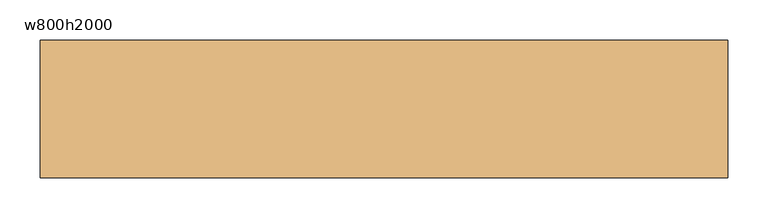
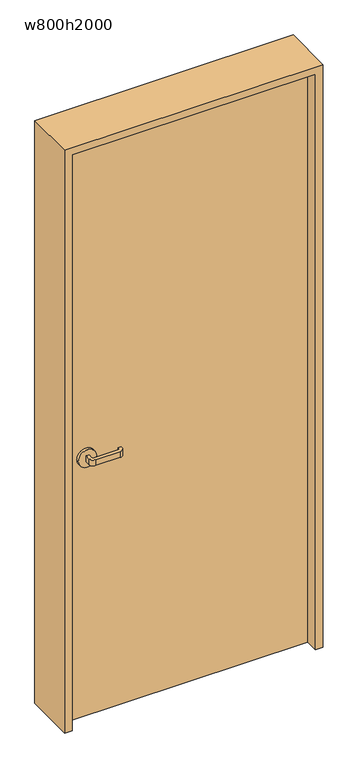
"""IFC4 building model written with IfcOpenShell, lengths in millimetres: door geometry, 片開き戸 : w800h2000."""

from ifc_helpers import new_model, si_unit, point, frame, frame_2d, origin, origin_with_axes, place, context, project, spatial, polyline, circle_curve, trimmed, segment, composite_curve, outline, extrude, source, transform, mapped, element, save


def w800h2000_09ab6a6a(model_context):
    return source(origin(), model_context, "Body", "SweptSolid", [
        extrude(outline(polyline([(400.0, -40.0), (-400.0, -40.0), (-400.0, 0.0), (400.0, 0.0), (400.0, -40.0)])), origin_with_axes(), (0.0, 0.0, 1.0), 2000.0),
        extrude(outline(composite_curve([segment(polyline([(-325.0, -50.0), (-325.0, -65.0)]), True, "CONTINUOUS"), segment(trimmed(circle_curve(frame_2d((-320.0, -65.0)), 5.0), [point((-325.0, -65.0))], [point((-320.0, -70.0))], True, "CARTESIAN"), True, "CONTINUOUS"), segment(polyline([(-320.0, -70.0), (-240.0, -70.0)]), True, "CONTINUOUS"), segment(trimmed(circle_curve(frame_2d((-240.0, -65.0)), 5.0), [point((-240.0, -70.0))], [point((-235.0, -65.0))], True, "CARTESIAN"), True, "CONTINUOUS"), segment(polyline([(-235.0, -65.0), (-235.0, -60.0), (-225.0, -60.0), (-225.0, -65.0)]), True, "CONTINUOUS"), segment(trimmed(circle_curve(frame_2d((-240.0, -65.0)), 15.0), [point((-225.0, -65.0))], [point((-240.0, -80.0))], False, "CARTESIAN"), True, "CONTINUOUS"), segment(polyline([(-240.0, -80.0), (-320.0, -80.0)]), True, "CONTINUOUS"), segment(trimmed(circle_curve(frame_2d((-320.0, -65.0)), 15.0), [point((-320.0, -80.0))], [point((-335.0, -65.0))], False, "CARTESIAN"), True, "CONTINUOUS"), segment(polyline([(-335.0, -65.0), (-335.0, -50.0), (-325.0, -50.0)]), True, "CONTINUOUS")], self_intersect=False)), frame((0.0, 0.0, 890.0), z_axis=(0.0, 0.0, 1.0), x_axis=(1.0, 0.0, 0.0)), (0.0, 0.0, 1.0), 20.0),
        extrude(outline(composite_curve([segment(trimmed(circle_curve(frame_2d((900.0, -330.0)), 30.0), [point((900.0, -360.0))], [point((900.0, -300.0))], False, "CARTESIAN"), True, "CONTINUOUS"), segment(trimmed(circle_curve(frame_2d((900.0, -330.0)), 30.0), [point((900.0, -300.0))], [point((900.0, -360.0))], False, "CARTESIAN"), True, "CONTINUOUS")], self_intersect=False)), frame((0.0, -50.0, 0.0), z_axis=(0.0, 1.0, 0.0), x_axis=(0.0, 0.0, 1.0)), (0.0, 0.0, 1.0), 10.0),
        extrude(outline(composite_curve([segment(polyline([(-335.0, 10.0), (-335.0, 25.0)]), True, "CONTINUOUS"), segment(trimmed(circle_curve(frame_2d((-320.0, 25.0)), 15.0), [point((-335.0, 25.0))], [point((-320.0, 40.0))], False, "CARTESIAN"), True, "CONTINUOUS"), segment(polyline([(-320.0, 40.0), (-240.0, 40.0)]), True, "CONTINUOUS"), segment(trimmed(circle_curve(frame_2d((-240.0, 25.0)), 15.0), [point((-240.0, 40.0))], [point((-225.0, 25.0))], False, "CARTESIAN"), True, "CONTINUOUS"), segment(polyline([(-225.0, 25.0), (-225.0, 20.0), (-235.0, 20.0), (-235.0, 25.0)]), True, "CONTINUOUS"), segment(trimmed(circle_curve(frame_2d((-240.0, 25.0)), 5.0), [point((-235.0, 25.0))], [point((-240.0, 30.0))], True, "CARTESIAN"), True, "CONTINUOUS"), segment(polyline([(-240.0, 30.0), (-320.0, 30.0)]), True, "CONTINUOUS"), segment(trimmed(circle_curve(frame_2d((-320.0, 25.0)), 5.0), [point((-320.0, 30.0))], [point((-325.0, 25.0))], True, "CARTESIAN"), True, "CONTINUOUS"), segment(polyline([(-325.0, 25.0), (-325.0, 10.0), (-335.0, 10.0)]), True, "CONTINUOUS")], self_intersect=False)), frame((0.0, 0.0, 890.0), z_axis=(0.0, 0.0, 1.0), x_axis=(1.0, 0.0, 0.0)), (0.0, 0.0, 1.0), 20.0),
        extrude(outline(composite_curve([segment(trimmed(circle_curve(frame_2d((900.0, -330.0)), 30.0), [point((900.0, -360.0))], [point((900.0, -300.0))], False, "CARTESIAN"), True, "CONTINUOUS"), segment(trimmed(circle_curve(frame_2d((900.0, -330.0)), 30.0), [point((900.0, -300.0))], [point((900.0, -360.0))], False, "CARTESIAN"), True, "CONTINUOUS")], self_intersect=False)), frame((0.0, 0.0, 0.0), z_axis=(0.0, 1.0, 0.0), x_axis=(0.0, 0.0, 1.0)), (0.0, 0.0, 1.0), 10.0),
        extrude(outline(polyline([(0.0, -400.0), (2000.0, -400.0), (2000.0, 400.0), (0.0, 400.0), (0.0, 425.0), (2025.0, 425.0), (2025.0, -425.0), (0.0, -425.0), (0.0, -400.0)])), frame((0.0, -85.0, 0.0), z_axis=(0.0, 1.0, 0.0), x_axis=(0.0, 0.0, 1.0)), (0.0, 0.0, 1.0), 170.0),
    ])


if __name__ == "__main__":
    model = new_model("IFC4")
    model_context = context("Model", 3, world=origin())
    ifc_project = project(units=[si_unit("LENGTHUNIT", "METRE", prefix="MILLI")], contexts=[model_context])
    site = spatial("IfcSite", under=ifc_project)
    building = spatial("IfcBuilding", under=site)
    placement = place(None, origin())
    w800h2000_shape = w800h2000_09ab6a6a(model_context)
    element("IfcDoor", 1, ObjectType="片開き戸 : w800h2000", at=placement, inside=building, context=model_context, shape_type="MappedRepresentation", body=[
        mapped(w800h2000_shape, transform((0.0, 0.0, 0.0), x_axis=(1.0, 0.0, 0.0), y_axis=(0.0, 1.0, 0.0), z_axis=(0.0, 0.0, 1.0))),
    ])
    save(model, "model.ifc")
